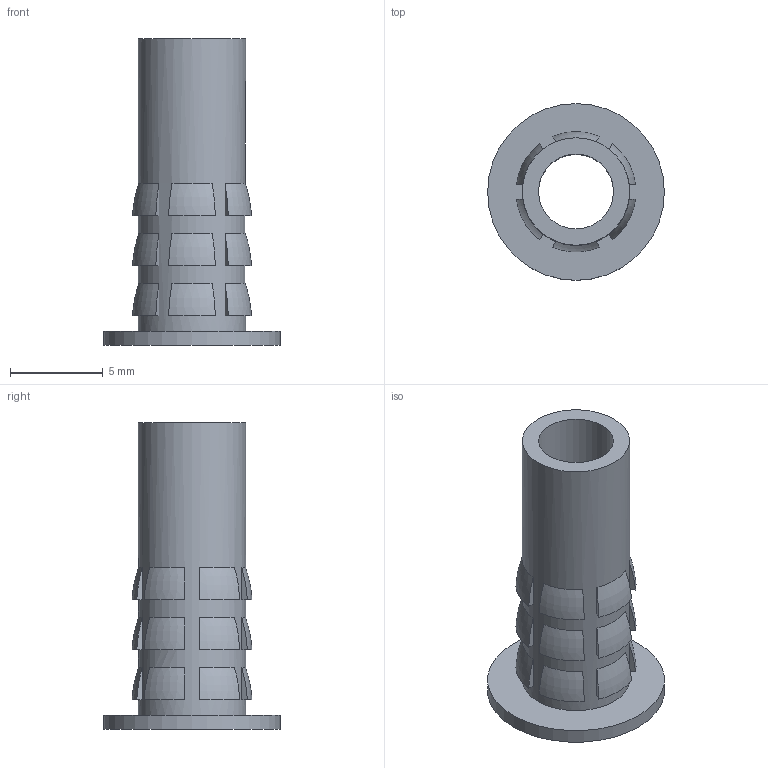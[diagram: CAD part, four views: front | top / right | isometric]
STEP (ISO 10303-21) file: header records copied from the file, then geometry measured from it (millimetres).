
FILE_DESCRIPTION (( 'STEP AP214' ), '1' );
FILE_NAME ('flanged insert 10-32 L1.STEP', '2017-08-09T04:05:56', ( '微软用户' ), ( '微软中国' ), 'SwSTEP 2.0', 'SolidWorks 2015', '' );
FILE_SCHEMA (( 'AUTOMOTIVE_DESIGN' ));
Length unit declared in the file: millimetre
Products named in the file (1): flanged insert 10-32 L1
Bounding box: 9.53 x 9.53 x 16.52 mm (x, y, z)
Volume: 268.7 mm3; surface area: 667.7 mm2
Topology: 1 solids, 1 shells, 79 faces, 173 edges, 115 vertices
Faces by surface type: plane 57, torus 18, cylinder 3, cone 1
Full cylindrical faces by diameter (mm): 4.039 x1, 5.791 x1, 9.525 x1
Entity records: 3139 total; most frequent: CARTESIAN_POINT 508, DIRECTION 354, ORIENTED_EDGE 338, EDGE_CURVE 169, AXIS2_PLACEMENT_3D 141, VERTEX_POINT 115, EDGE_LOOP 104, UNCERTAINTY_MEASURE_WITH_UNIT 82
